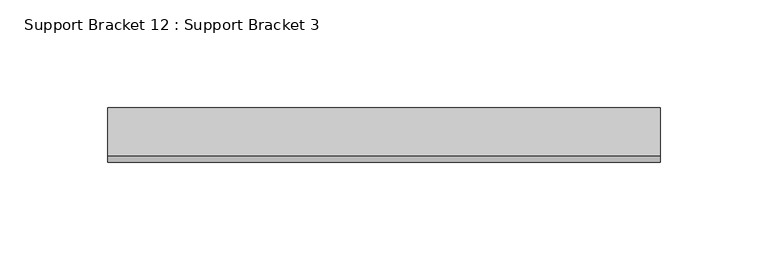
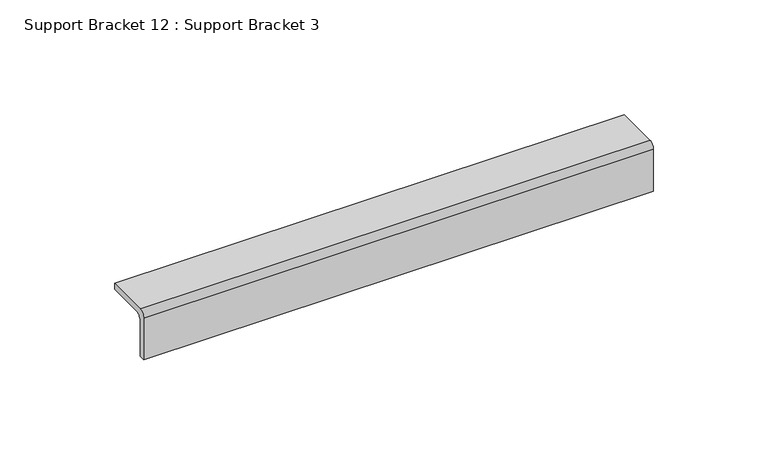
"""IFC4 building model written with IfcOpenShell, lengths in millimetres: proxy geometry, Support Bracket 12 : Support Bracket 3."""

from ifc_helpers import new_model, si_unit, point, frame, frame_2d, origin, place, context, project, spatial, polyline, circle_curve, trimmed, segment, composite_curve, outline, extrude, source, transform, mapped, element, save


def support_bracket_12_support_bracket_3_113736d0(model_context):
    return source(origin(), model_context, "Body", "SweptSolid", [
        extrude(outline(composite_curve([segment(polyline([(2860.4941955, 1157.2449176), (2882.8461955, 1157.2449176), (2882.8461955, 1154.0699176), (2863.6691955, 1154.0699176)]), True, "CONTINUOUS"), segment(trimmed(circle_curve(frame_2d((2863.6691955, 1151.0219176)), 3.048), [point((2863.6691955, 1154.0699176))], [point((2860.6211955, 1151.0219176))], True, "CARTESIAN"), True, "CONTINUOUS"), segment(polyline([(2860.6211955, 1151.0219176), (2860.6211955, 1131.8449176), (2857.4461955, 1131.8449176), (2857.4461955, 1154.1969176)]), True, "CONTINUOUS"), segment(trimmed(circle_curve(frame_2d((2860.4941955, 1154.1969176)), 3.048), [point((2857.4461955, 1154.1969176))], [point((2860.4941955, 1157.2449176))], False, "CARTESIAN"), True, "CONTINUOUS")], self_intersect=False)), frame((15646.355609, 0.0, 0.0), z_axis=(1.0, 0.0, 0.0), x_axis=(0.0, 1.0, 0.0)), (0.0, 0.0, 1.0), 256.778125),
    ])


if __name__ == "__main__":
    model = new_model("IFC4")
    model_context = context("Model", 3, world=origin())
    ifc_project = project(units=[si_unit("LENGTHUNIT", "METRE", prefix="MILLI")], contexts=[model_context])
    site = spatial("IfcSite", under=ifc_project)
    building = spatial("IfcBuilding", under=site)
    placement = place(None, origin())
    support_bracket_12_support_bracket_3_shape = support_bracket_12_support_bracket_3_113736d0(model_context)
    element("IfcBuildingElementProxy", 1, Name="Support Bracket 12 : Support Bracket 3", ObjectType="Support Bracket 12 : Support Bracket 3", at=placement, inside=building, context=model_context, shape_type="MappedRepresentation", body=[
        mapped(support_bracket_12_support_bracket_3_shape, transform((0.0, 0.0, 0.0), x_axis=(1.0, 0.0, 0.0), y_axis=(0.0, 1.0, 0.0), z_axis=(0.0, 0.0, 1.0))),
    ])
    save(model, "model.ifc")
